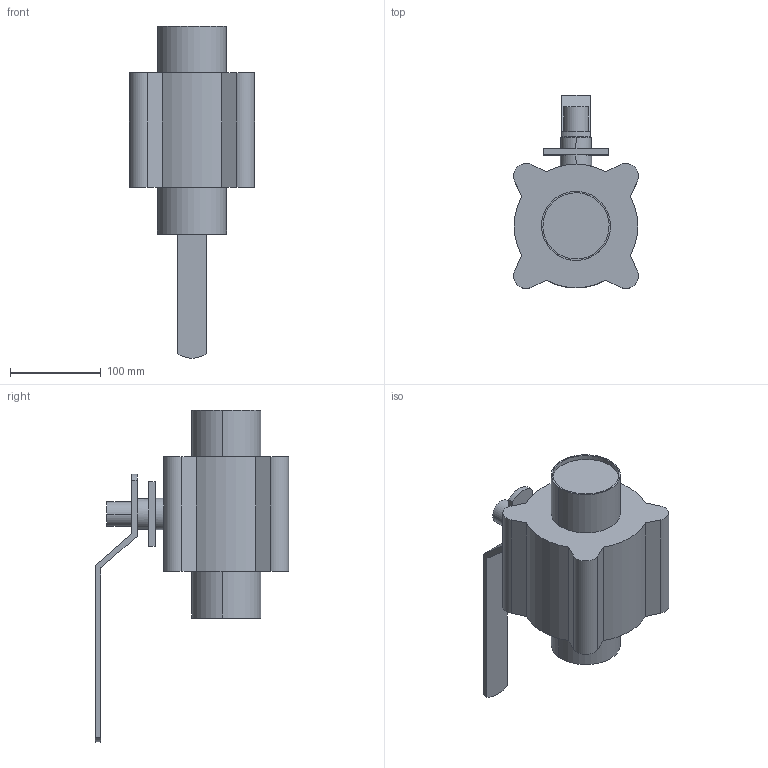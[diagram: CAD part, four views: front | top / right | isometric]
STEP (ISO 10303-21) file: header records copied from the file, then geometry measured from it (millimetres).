
FILE_DESCRIPTION(('Creo Elements/Direct Modeling STEP Export'),'2;1');
FILE_NAME('BLV1-3T-H-12S.stp','2019-05-10T 8:24:41',(''),(''),'Creo Elements/Direct Modeling STEP processor for AP214 (Solid Model)','Creo Elements/Direct Modeling 19.0F 14-Feb-2017 (C) Parametric Technology GmbH','');
FILE_SCHEMA(('AUTOMOTIVE_DESIGN { 1 0 10303 214 1 1 1 1 }'));
Length unit declared in the file: millimetre
Products named in the file (2): BLV1-3T-H-12S
Assembly tree (1 placements, depth 2):
  BLV1-3T-H-12S
    BLV1-3T-H-12S
Bounding box: 137.58 x 212.79 x 365.4 mm (x, y, z)
Volume: 2718274 mm3; surface area: 167911.7 mm2
Topology: 1 solids, 1 shells, 56 faces, 135 edges, 89 vertices
Faces by surface type: plane 32, cylinder 24
Entity records: 1642 total; most frequent: CARTESIAN_POINT 312, ORIENTED_EDGE 270, DIRECTION 262, EDGE_CURVE 135, AXIS2_PLACEMENT_3D 90, VERTEX_POINT 89, VECTOR 82, LINE 82
